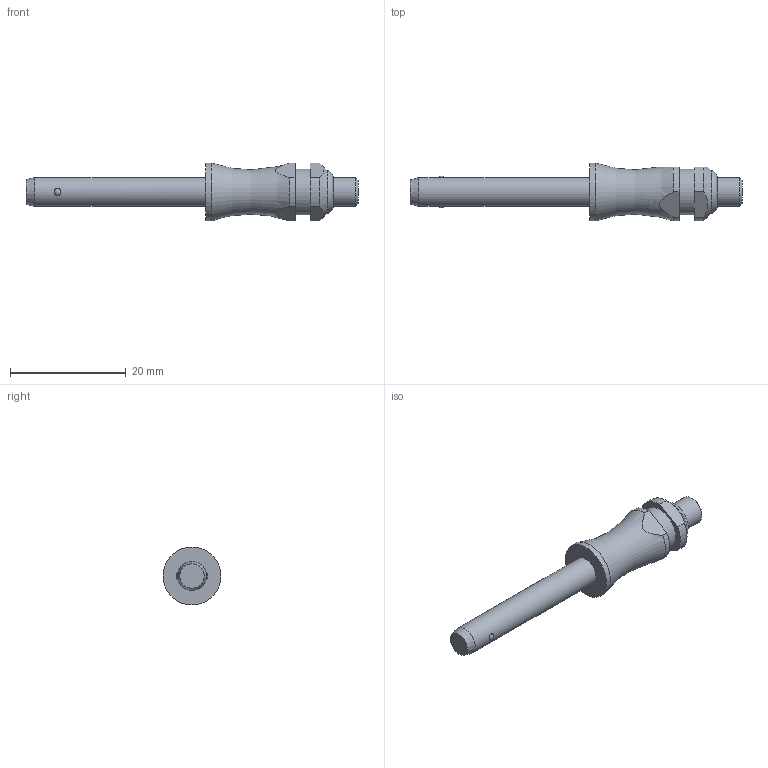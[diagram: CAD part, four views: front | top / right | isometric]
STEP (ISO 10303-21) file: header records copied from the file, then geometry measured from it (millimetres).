
FILE_DESCRIPTION( ( 'STEP AP203' ), '1' );
FILE_NAME( 'C:/Temp/Ganter_Step_05_03_2020/data/3_1/gn113_3/Stainless Steel-Ball lock pin GN 113.3-5-25 (deactivated).stp', '2020-03-12T08:18:09', ( 'License CC BY-ND 4.0' ), ( 'CADENAS' ), ' ', 'PARTsolutions', ' ' );
FILE_SCHEMA( ( 'CONFIG_CONTROL_DESIGN' ) );
Length unit declared in the file: millimetre
Products named in the file (1): _Stainless Steel-Ball lock pin GN 113.3-5-25 (deactivated)
Bounding box: 57.3 x 10 x 10 mm (x, y, z)
Volume: 1945.2 mm3; surface area: 1306.5 mm2
Topology: 1 solids, 1 shells, 29 faces, 61 edges, 40 vertices
Faces by surface type: plane 12, cylinder 10, cone 3, torus 2, sphere 2
Full cylindrical faces by diameter (mm): 5 x2, 7.9 x1, 10 x1
Entity records: 902 total; most frequent: CARTESIAN_POINT 272, DIRECTION 126, ORIENTED_EDGE 100, AXIS2_PLACEMENT_3D 54, EDGE_CURVE 50, EDGE_LOOP 44, VERTEX_POINT 38, FACE_OUTER_BOUND 35
